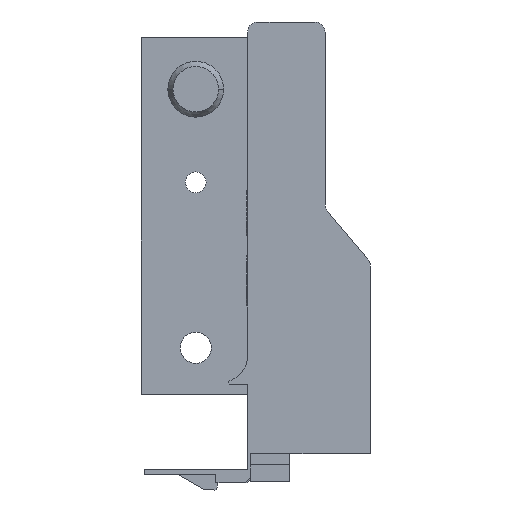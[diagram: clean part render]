
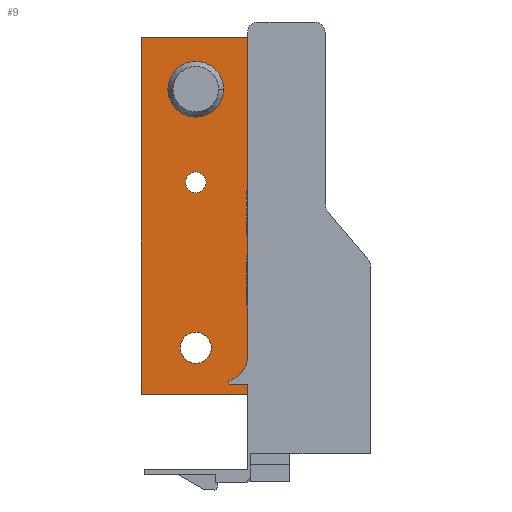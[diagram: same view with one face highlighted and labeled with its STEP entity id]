
A CAD part, front view. The second image highlights one B-rep face of the part: STEP entity #9.
In plain terms, the highlighted planar face has unit normal (0, -1, 0).
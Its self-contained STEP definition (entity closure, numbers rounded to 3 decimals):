
#9 = ADVANCED_FACE ( 'NONE', ( #2314, #2315, #2316, #2317 ), #1268, .T. ) ;
#100 = EDGE_CURVE ( 'NONE', #1369, #1313, #1011, .T. ) ;
#101 = EDGE_CURVE ( 'NONE', #1402, #1337, #799, .T. ) ;
#102 = EDGE_CURVE ( 'NONE', #1396, #1371, #936, .T. ) ;
#103 = EDGE_CURVE ( 'NONE', #1394, #1373, #935, .T. ) ;
#104 = EDGE_CURVE ( 'NONE', #1355, #1300, #798, .T. ) ;
#105 = EDGE_CURVE ( 'NONE', #1351, #1355, #782, .T. ) ;
#106 = EDGE_CURVE ( 'NONE', #1351, #1218, #796, .T. ) ;
#245 = EDGE_CURVE ( 'NONE', #1300, #1313, #1062, .T. ) ;
#246 = EDGE_CURVE ( 'NONE', #1218, #1369, #775, .T. ) ;
#256 = EDGE_CURVE ( 'NONE', #1337, #1402, #1077, .T. ) ;
#258 = EDGE_CURVE ( 'NONE', #1371, #1396, #1121, .T. ) ;
#271 = EDGE_CURVE ( 'NONE', #1373, #1394, #1141, .T. ) ;
#291 = AXIS2_PLACEMENT_3D ( 'NONE', #1269, #1257, #1255 ) ;
#338 = AXIS2_PLACEMENT_3D ( 'NONE', #1625, #1626, #1627 ) ;
#339 = AXIS2_PLACEMENT_3D ( 'NONE', #1628, #1629, #1630 ) ;
#340 = AXIS2_PLACEMENT_3D ( 'NONE', #1631, #1632, #1633 ) ;
#670 = EDGE_LOOP ( 'NONE', ( #2329, #2407, #2448, #2440, #2443, #2408 ) ) ;
#715 = EDGE_LOOP ( 'NONE', ( #2420, #2390 ) ) ;
#725 = EDGE_LOOP ( 'NONE', ( #2409, #2380 ) ) ;
#738 = EDGE_LOOP ( 'NONE', ( #2450, #2447 ) ) ;
#775 = LINE ( 'NONE', #1949, #1051 ) ;
#782 = LINE ( 'NONE', #1636, #788 ) ;
#783 = VECTOR ( 'NONE', #1624, 1000. ) ;
#788 = VECTOR ( 'NONE', #1637, 1000. ) ;
#796 = LINE ( 'NONE', #1638, #969 ) ;
#798 = LINE ( 'NONE', #1634, #938 ) ;
#799 = CIRCLE ( 'NONE', #338, 5.4 ) ;
#935 = CIRCLE ( 'NONE', #340, 2. ) ;
#936 = CIRCLE ( 'NONE', #339, 3. ) ;
#938 = VECTOR ( 'NONE', #1635, 1000. ) ;
#969 = VECTOR ( 'NONE', #1639, 1000. ) ;
#1011 = LINE ( 'NONE', #1623, #783 ) ;
#1048 = VECTOR ( 'NONE', #1948, 1000. ) ;
#1051 = VECTOR ( 'NONE', #1950, 1000. ) ;
#1062 = LINE ( 'NONE', #1947, #1048 ) ;
#1077 = CIRCLE ( 'NONE', #2076, 5.4 ) ;
#1121 = CIRCLE ( 'NONE', #2077, 3. ) ;
#1141 = CIRCLE ( 'NONE', #2083, 2. ) ;
#1218 = VERTEX_POINT ( 'NONE', #2050 ) ;
#1255 = DIRECTION ( 'NONE',  ( 1., 0., 0. ) ) ;
#1257 = DIRECTION ( 'NONE',  ( 0., -1., 0. ) ) ;
#1268 = PLANE ( 'NONE',  #291 ) ;
#1269 = CARTESIAN_POINT ( 'NONE',  ( -21.1, 597.2, 27. ) ) ;
#1300 = VERTEX_POINT ( 'NONE', #2506 ) ;
#1313 = VERTEX_POINT ( 'NONE', #2513 ) ;
#1337 = VERTEX_POINT ( 'NONE', #2536 ) ;
#1351 = VERTEX_POINT ( 'NONE', #2547 ) ;
#1355 = VERTEX_POINT ( 'NONE', #2551 ) ;
#1369 = VERTEX_POINT ( 'NONE', #2565 ) ;
#1371 = VERTEX_POINT ( 'NONE', #2567 ) ;
#1373 = VERTEX_POINT ( 'NONE', #2569 ) ;
#1394 = VERTEX_POINT ( 'NONE', #2590 ) ;
#1396 = VERTEX_POINT ( 'NONE', #2592 ) ;
#1402 = VERTEX_POINT ( 'NONE', #2598 ) ;
#1623 = CARTESIAN_POINT ( 'NONE',  ( -21.1, 597.2, 27. ) ) ;
#1624 = DIRECTION ( 'NONE',  ( 0., 0., 1. ) ) ;
#1625 = CARTESIAN_POINT ( 'NONE',  ( -31.5, 597.2, 57. ) ) ;
#1626 = DIRECTION ( 'NONE',  ( 0., -1., 0. ) ) ;
#1627 = DIRECTION ( 'NONE',  ( 1., 0., 0. ) ) ;
#1628 = CARTESIAN_POINT ( 'NONE',  ( -31.5, 597.2, 7. ) ) ;
#1629 = DIRECTION ( 'NONE',  ( 0., 1., 0. ) ) ;
#1630 = DIRECTION ( 'NONE',  ( 1., 0., 0. ) ) ;
#1631 = CARTESIAN_POINT ( 'NONE',  ( -31.5, 597.2, 39. ) ) ;
#1632 = DIRECTION ( 'NONE',  ( 0., 1., 0. ) ) ;
#1633 = DIRECTION ( 'NONE',  ( 1., 0., 0. ) ) ;
#1634 = CARTESIAN_POINT ( 'NONE',  ( -42., 597.2, 27. ) ) ;
#1635 = DIRECTION ( 'NONE',  ( 0., 0., 1. ) ) ;
#1636 = CARTESIAN_POINT ( 'NONE',  ( -21.5, 597.2, -2. ) ) ;
#1637 = DIRECTION ( 'NONE',  ( -1., 0., 0. ) ) ;
#1638 = CARTESIAN_POINT ( 'NONE',  ( -21.5, 597.2, -2. ) ) ;
#1639 = DIRECTION ( 'NONE',  ( 0., 0., 1. ) ) ;
#1947 = CARTESIAN_POINT ( 'NONE',  ( -21.1, 597.2, 67. ) ) ;
#1948 = DIRECTION ( 'NONE',  ( 1., 0., 0. ) ) ;
#1949 = CARTESIAN_POINT ( 'NONE',  ( -21.1, 597.2, 27. ) ) ;
#1950 = DIRECTION ( 'NONE',  ( 1., 0., 0. ) ) ;
#1973 = CARTESIAN_POINT ( 'NONE',  ( -31.5, 597.2, 57. ) ) ;
#1974 = DIRECTION ( 'NONE',  ( 0., -1., 0. ) ) ;
#1975 = DIRECTION ( 'NONE',  ( 1., 0., 0. ) ) ;
#1978 = CARTESIAN_POINT ( 'NONE',  ( -31.5, 597.2, 7. ) ) ;
#1979 = DIRECTION ( 'NONE',  ( 0., 1., 0. ) ) ;
#1980 = DIRECTION ( 'NONE',  ( 1., 0., 0. ) ) ;
#2010 = CARTESIAN_POINT ( 'NONE',  ( -31.5, 597.2, 39. ) ) ;
#2011 = DIRECTION ( 'NONE',  ( 0., 1., 0. ) ) ;
#2012 = DIRECTION ( 'NONE',  ( 1., 0., 0. ) ) ;
#2050 = CARTESIAN_POINT ( 'NONE',  ( -21.5, 597.2, 27. ) ) ;
#2076 = AXIS2_PLACEMENT_3D ( 'NONE', #1973, #1974, #1975 ) ;
#2077 = AXIS2_PLACEMENT_3D ( 'NONE', #1978, #1979, #1980 ) ;
#2083 = AXIS2_PLACEMENT_3D ( 'NONE', #2010, #2011, #2012 ) ;
#2314 = FACE_BOUND ( 'NONE', #738, .T. ) ;
#2315 = FACE_BOUND ( 'NONE', #715, .T. ) ;
#2316 = FACE_BOUND ( 'NONE', #725, .T. ) ;
#2317 = FACE_OUTER_BOUND ( 'NONE', #670, .T. ) ;
#2329 = ORIENTED_EDGE ( 'NONE', *, *, #104, .F. ) ;
#2380 = ORIENTED_EDGE ( 'NONE', *, *, #271, .T. ) ;
#2390 = ORIENTED_EDGE ( 'NONE', *, *, #258, .T. ) ;
#2407 = ORIENTED_EDGE ( 'NONE', *, *, #105, .F. ) ;
#2408 = ORIENTED_EDGE ( 'NONE', *, *, #245, .F. ) ;
#2409 = ORIENTED_EDGE ( 'NONE', *, *, #103, .T. ) ;
#2420 = ORIENTED_EDGE ( 'NONE', *, *, #102, .T. ) ;
#2440 = ORIENTED_EDGE ( 'NONE', *, *, #246, .T. ) ;
#2443 = ORIENTED_EDGE ( 'NONE', *, *, #100, .T. ) ;
#2447 = ORIENTED_EDGE ( 'NONE', *, *, #256, .F. ) ;
#2448 = ORIENTED_EDGE ( 'NONE', *, *, #106, .T. ) ;
#2450 = ORIENTED_EDGE ( 'NONE', *, *, #101, .F. ) ;
#2506 = CARTESIAN_POINT ( 'NONE',  ( -42., 597.2, 67. ) ) ;
#2513 = CARTESIAN_POINT ( 'NONE',  ( -21.1, 597.2, 67. ) ) ;
#2536 = CARTESIAN_POINT ( 'NONE',  ( -26.1, 597.2, 57. ) ) ;
#2547 = CARTESIAN_POINT ( 'NONE',  ( -21.5, 597.2, -2. ) ) ;
#2551 = CARTESIAN_POINT ( 'NONE',  ( -42., 597.2, -2. ) ) ;
#2565 = CARTESIAN_POINT ( 'NONE',  ( -21.1, 597.2, 27. ) ) ;
#2567 = CARTESIAN_POINT ( 'NONE',  ( -28.5, 597.2, 7. ) ) ;
#2569 = CARTESIAN_POINT ( 'NONE',  ( -29.5, 597.2, 39. ) ) ;
#2590 = CARTESIAN_POINT ( 'NONE',  ( -33.5, 597.2, 39. ) ) ;
#2592 = CARTESIAN_POINT ( 'NONE',  ( -34.5, 597.2, 7. ) ) ;
#2598 = CARTESIAN_POINT ( 'NONE',  ( -36.9, 597.2, 57. ) ) ;
